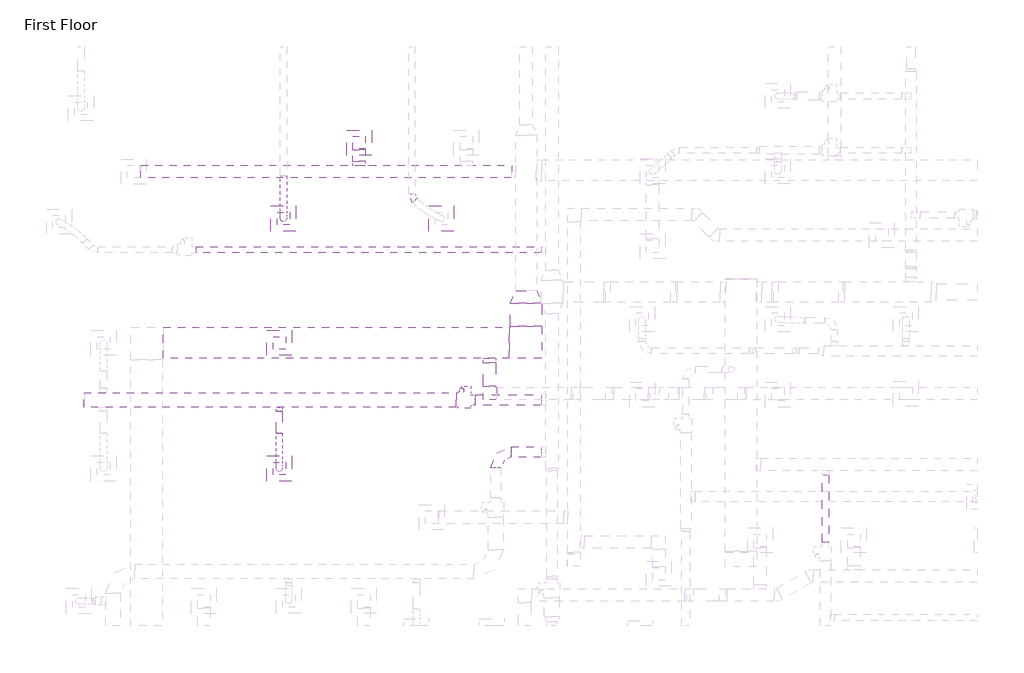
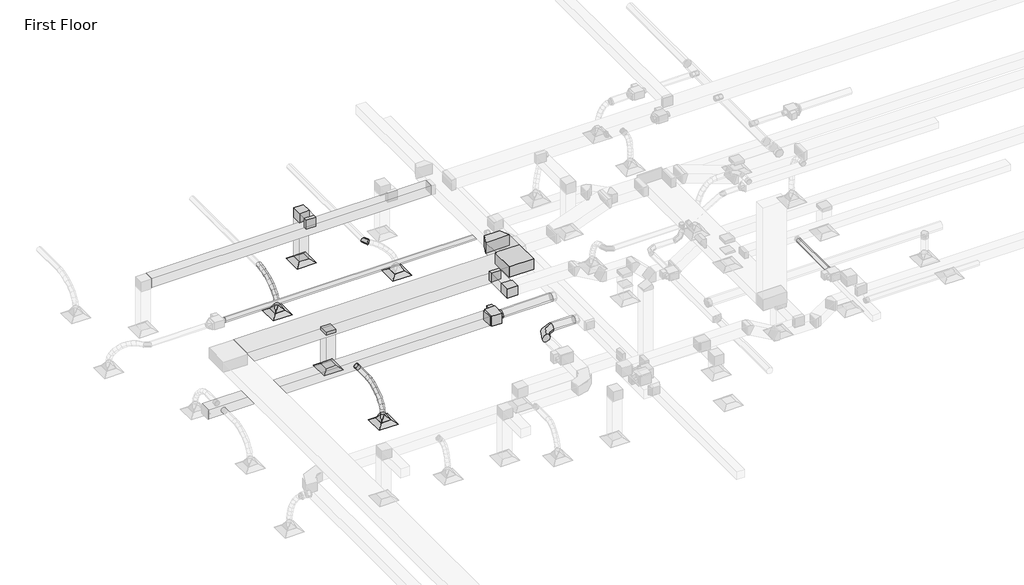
# One storey, part 38 of 61: 16 duct segments, 12 duct fittings, 5 air terminals, 1 proxy.
"""IFC4 building model written with IfcOpenShell, lengths in millimetres."""

from ifc_helpers import new_model, si_unit, point, frame, frame_2d, origin, place, context, project, spatial, polyline, circle_curve, ellipse_curve, trimmed, segment, composite_curve, outline, extrude, transform, mapped, element, save
from ifc_brep_helpers import plane_surface, cylinder_surface, advanced_brep
from components import m_exhaust_grill_er_600_x_600_face_300_x_300_connection_ff221211, m_vav_unit_single_duct_250_mm_b14a1009, m_rectangular_elbow_mitered_standard_8eee5933, m_rectangular_elbow_mitered_standard_b1e48f8f, m_rectangular_takeoff_standard_c00386d1, m_rectangular_transition_angle_45_degree_d664cccb, m_rectangular_to_round_transition_angle_45_degree_8f201c83, m_round_elbow_1_5_d_fa134dda, m_round_elbow_1_5_d_4a9a621c, m_round_takeoff_standard_2721f8a4

model = new_model("IFC4")

# Units and contexts
model_context = context("Model", 3, world=origin())
ifc_project = project(units=[si_unit("LENGTHUNIT", "METRE", prefix="MILLI")], contexts=[model_context])

# Site, building, storey
site = spatial("IfcSite", under=ifc_project)
building = spatial("IfcBuilding", under=site)
storey = spatial("IfcBuildingStorey", under=building, Name="First Floor", Elevation=0.0)

# Air terminals
placement = place(None, origin())
m_exhaust_grill_er_600_x_600_face_300_x_300_connection_shape = m_exhaust_grill_er_600_x_600_face_300_x_300_connection_ff221211(model_context)
element("IfcAirTerminal", 1, ObjectType="M_Return Register : RR-600 x 600 Face 300 x 300 Connection", at=placement, inside=storey, context=model_context, shape_type="MappedRepresentation", body=[
    mapped(m_exhaust_grill_er_600_x_600_face_300_x_300_connection_shape, transform((-44128.5939195, 47871.0942628, 2680.0), x_axis=(1.0, 0.0, 0.0), y_axis=(0.0, 1.0, 0.0), z_axis=(0.0, 0.0, 1.0))),
])
element("IfcAirTerminal", 2, ObjectType="M_Return Register : RR-600 x 600 Face 300 x 300 Connection", at=placement, inside=storey, context=model_context, shape_type="MappedRepresentation", body=[
    mapped(m_exhaust_grill_er_600_x_600_face_300_x_300_connection_shape, transform((-46037.4296862, 43083.0983956, 2680.0), x_axis=(1.0, 0.0, 0.0), y_axis=(0.0, 1.0, 0.0), z_axis=(0.0, 0.0, 1.0))),
])
element("IfcAirTerminal", 3, ObjectType="M_Supply Diffuser : SD-600 x 600 Face 300 x 300 Connection", at=placement, inside=storey, context=model_context, shape_type="MappedRepresentation", body=[
    mapped(m_exhaust_grill_er_600_x_600_face_300_x_300_connection_shape, transform((-42157.9361632, 46057.2158131, 2680.0), x_axis=(1.0, 0.0, 0.0), y_axis=(0.0, 1.0, 0.0), z_axis=(0.0, 0.0, 1.0))),
])
element("IfcAirTerminal", 4, ObjectType="M_Supply Diffuser : SD-600 x 600 Face 300 x 300 Connection", at=placement, inside=storey, context=model_context, shape_type="MappedRepresentation", body=[
    mapped(m_exhaust_grill_er_600_x_600_face_300_x_300_connection_shape, transform((-45937.9361632, 46057.2158131, 2680.0), x_axis=(1.0, 0.0, 0.0), y_axis=(0.0, 1.0, 0.0), z_axis=(0.0, 0.0, 1.0))),
])
element("IfcAirTerminal", 5, ObjectType="M_Supply Diffuser : SD-600 x 600 Face 300 x 300 Connection", at=placement, inside=storey, context=model_context, shape_type="MappedRepresentation", body=[
    mapped(m_exhaust_grill_er_600_x_600_face_300_x_300_connection_shape, transform((-46037.4296862, 40075.2507851, 2680.0), x_axis=(1.0, 0.0, 0.0), y_axis=(0.0, 1.0, 0.0), z_axis=(0.0, 0.0, 1.0))),
])

# Proxy
m_vav_unit_single_duct_250_mm_shape = m_vav_unit_single_duct_250_mm_b14a1009(model_context)
element("IfcBuildingElementProxy", 6, Name="M_VAV Unit - Single Duct : 250 mm", ObjectType="M_VAV Unit - Single Duct : 250 mm", at=placement, inside=storey, context=model_context, shape_type="MappedRepresentation", body=[
    mapped(m_vav_unit_single_duct_250_mm_shape, transform((-41452.6542232, 41715.419914, 3499.95), x_axis=(-1.0000000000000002, 0.0, 0.0), y_axis=(0.0, -1.0000000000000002, 0.0), z_axis=(0.0, 0.0, 1.0))),
])

# Duct fittings
m_rectangular_elbow_mitered_standard_shape = m_rectangular_elbow_mitered_standard_8eee5933(model_context)
element("IfcDuctFitting", 7, ObjectType="M_Rectangular Elbow - Mitered : Standard", at=placement, inside=storey, context=model_context, shape_type="MappedRepresentation", body=[
    mapped(m_rectangular_elbow_mitered_standard_shape, transform((-44128.5939195, 47871.0942628, 4259.5), x_axis=(0.0, 0.0, 1.0), y_axis=(0.0, -1.0, 0.0), z_axis=(1.0, 0.0, 0.0))),
])
element("IfcDuctFitting", 8, ObjectType="M_Rectangular Elbow - Mitered : Standard", at=placement, inside=storey, context=model_context, shape_type="MappedRepresentation", body=[
    mapped(m_rectangular_elbow_mitered_standard_shape, transform((-41009.3980886, 41867.8999759, 4259.5), x_axis=(0.0, -1.0, 0.0), y_axis=(1.0, 0.0, 0.0), z_axis=(0.0, 0.0, 1.0))),
])
m_rectangular_elbow_mitered_standard_2_shape = m_rectangular_elbow_mitered_standard_b1e48f8f(model_context)
element("IfcDuctFitting", 9, ObjectType="M_Rectangular Elbow - Mitered : Standard", at=placement, inside=storey, context=model_context, shape_type="MappedRepresentation", body=[
    mapped(m_rectangular_elbow_mitered_standard_2_shape, transform((-40131.0542232, 43083.0983956, 4167.610768), x_axis=(1.0, 0.0, 0.0), y_axis=(0.0, 1.0, 0.0), z_axis=(0.0, 0.0, 1.0))),
])
m_rectangular_takeoff_standard_shape = m_rectangular_takeoff_standard_c00386d1(model_context)
element("IfcDuctFitting", 10, ObjectType="M_Rectangular Takeoff : Standard", at=placement, inside=storey, context=model_context, shape_type="MappedRepresentation", body=[
    mapped(m_rectangular_takeoff_standard_shape, transform((-44128.5939195, 47329.7739392, 4259.5), x_axis=(0.0, 1.0, 0.0), y_axis=(1.0, 0.0, 0.0), z_axis=(0.0, 0.0, -1.0))),
])
element("IfcDuctFitting", 11, ObjectType="M_Rectangular Takeoff : Standard", at=placement, inside=storey, context=model_context, shape_type="MappedRepresentation", body=[
    mapped(m_rectangular_takeoff_standard_shape, transform((-41009.3980886, 42708.0983956, 4259.5), x_axis=(0.0, -1.0, 0.0), y_axis=(-1.0, 0.0, 0.0), z_axis=(0.0, 0.0, -1.0))),
])
element("IfcDuctFitting", 12, ObjectType="M_Rectangular Takeoff : Standard", at=placement, inside=storey, context=model_context, shape_type="MappedRepresentation", body=[
    mapped(m_rectangular_takeoff_standard_shape, transform((-46037.4296862, 43083.0983956, 3992.610768), x_axis=(0.0, 0.0, -1.0), y_axis=(0.0, 1.0, 0.0), z_axis=(1.0, 0.0, 0.0))),
])
m_rectangular_transition_angle_45_degree_shape = m_rectangular_transition_angle_45_degree_d664cccb(model_context)
element("IfcDuctFitting", 13, ObjectType="M_Rectangular Transition - Angle : 45 Degree", at=placement, inside=storey, context=model_context, shape_type="MappedRepresentation", body=[
    mapped(m_rectangular_transition_angle_45_degree_shape, transform((-40131.0542232, 44332.6026172, 4167.610768), x_axis=(0.0, -1.0, 0.0), y_axis=(1.0, 0.0, 0.0), z_axis=(0.0, 0.0, 1.0))),
])
m_rectangular_to_round_transition_angle_45_degree_shape = m_rectangular_to_round_transition_angle_45_degree_8f201c83(model_context)
element("IfcDuctFitting", 14, ObjectType="M_Rectangular to Round Transition - Angle : 45 Degree", at=placement, inside=storey, context=model_context, shape_type="MappedRepresentation", body=[
    mapped(m_rectangular_to_round_transition_angle_45_degree_shape, transform((-45937.9361632, 46057.2158131, 2781.6), x_axis=(0.0, 0.0, 1.0), y_axis=(1.0, 0.0, 0.0), z_axis=(0.0, 1.0, 0.0))),
])
element("IfcDuctFitting", 15, ObjectType="M_Rectangular to Round Transition - Angle : 45 Degree", at=placement, inside=storey, context=model_context, shape_type="MappedRepresentation", body=[
    mapped(m_rectangular_to_round_transition_angle_45_degree_shape, transform((-46037.4296862, 40075.2507851, 2781.6), x_axis=(0.0, 0.0, 1.0), y_axis=(1.0, 0.0, 0.0), z_axis=(0.0, 1.0, 0.0))),
])
m_round_elbow_1_5_d_shape = m_round_elbow_1_5_d_fa134dda(model_context)
element("IfcDuctFitting", 16, ObjectType="M_Round Elbow : 1.5 D", at=placement, inside=storey, context=model_context, shape_type="MappedRepresentation", body=[
    mapped(m_round_elbow_1_5_d_shape, transform((-42866.4659911, 46556.7063247, 3669.1), x_axis=(0.0, -1.0, 0.0), y_axis=(1.0, 0.0, 0.0), z_axis=(0.0, 0.0, 1.0))),
])
m_round_elbow_1_5_d_2_shape = m_round_elbow_1_5_d_4a9a621c(model_context)
element("IfcDuctFitting", 17, ObjectType="M_Round Elbow : 1.5 D", at=placement, inside=storey, context=model_context, shape_type="MappedRepresentation", body=[
    mapped(m_round_elbow_1_5_d_2_shape, transform((-40858.2755943, 40472.4324746, 3659.5), x_axis=(-1.0, 0.0, 0.0), y_axis=(0.0, -0.9999999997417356, -2.2727272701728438e-05), z_axis=(0.0, -2.2727272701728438e-05, 0.9999999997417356))),
])
m_round_takeoff_standard_shape = m_round_takeoff_standard_2721f8a4(model_context)
element("IfcDuctFitting", 18, ObjectType="M_Round Takeoff : Standard", at=placement, inside=storey, context=model_context, shape_type="MappedRepresentation", body=[
    mapped(m_round_takeoff_standard_shape, transform((-46037.4296862, 41540.419914, 3669.0), x_axis=(0.0, -1.0, 0.0), y_axis=(-1.0, 0.0, 0.0), z_axis=(0.0, 0.0, -1.0))),
])

# Duct segments
element("IfcDuctSegment", 19, ObjectType="Flex - Round", at=placement, inside=storey, context=model_context, shape_type="AdvancedBrep", body=[
    advanced_brep(
    [(-45862.9361632, 47080.7449461, 3669.1), (-45937.9361632, 47086.2290411, 3594.3007707), (-46012.9361632, 47080.7449461, 3669.1), (-45937.9361632, 47075.260851, 3743.8992293), (-45862.9361632, 46936.4627603, 3658.5215858), (-45937.9361632, 46946.6913024, 3584.0702077), (-46012.9361632, 46936.4627603, 3658.5215858), (-45937.9361632, 46926.2342182, 3732.972964), (-45862.9361632, 46057.2158131, 2962.6660172), (-45937.9361632, 45983.167095, 2974.5734665), (-46012.9361632, 46057.2158131, 2962.6660172), (-45937.9361632, 46131.2645312, 2950.7585678), (-45862.9361632, 46784.3907563, 3627.7148468), (-45937.9361632, 46803.4537186, 3555.0531451), (-46012.9361632, 46784.3907563, 3627.7148468), (-45937.9361632, 46765.327794, 3700.3765485), (-45862.9361632, 46631.1413627, 3578.0725382), (-45937.9361632, 46658.2816692, 3508.0273428), (-46012.9361632, 46631.1413627, 3578.0725382), (-45937.9361632, 46604.0010562, 3648.1177335), (-45862.9361632, 46483.3270079, 3510.9874151), (-45937.9361632, 46518.5416552, 3444.6067363), (-46012.9361632, 46483.3270079, 3510.9874151), (-45937.9361632, 46448.1123605, 3577.3680939), (-45862.9361632, 46347.5601204, 3427.8522329), (-45937.9361632, 46391.4137481, 3366.7615274), (-46012.9361632, 46347.5601204, 3427.8522329), (-45937.9361632, 46303.7064927, 3488.9429385), (-45862.9361632, 46230.4531287, 3330.0597468), (-45937.9361632, 46283.8399069, 3276.9298853), (-46012.9361632, 46230.4531287, 3330.0597468), (-45937.9361632, 46177.0663505, 3383.1896084), (-45862.9361632, 46138.6184612, 3219.002712), (-45937.9361632, 46202.1121415, 3178.0952781), (-46012.9361632, 46138.6184612, 3219.002712), (-45937.9361632, 46075.124781, 3259.9101459), (-45862.9361632, 46078.6685466, 3096.0738837), (-45937.9361632, 46150.9523119, 3073.1907433), (-46012.9361632, 46078.6685466, 3096.0738837), (-45937.9361632, 46006.3847812, 3118.9570241)],
    [
        (0, 1, circle_curve(frame((-45937.9361632, 47080.7449461, 3669.1), z_axis=(0.0, 0.9973230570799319, 0.07312126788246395), x_axis=(1.0, 0.0, 0.0)), 75.0)),
        (1, 2, circle_curve(frame((-45937.9361632, 47080.7449461, 3669.1), z_axis=(0.0, 0.9973230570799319, 0.07312126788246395), x_axis=(1.0, 0.0, 0.0)), 75.0)),
        (2, 3, circle_curve(frame((-45937.9361632, 47080.7449461, 3669.1), z_axis=(0.0, 0.9973230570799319, 0.07312126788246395), x_axis=(1.0, 0.0, 0.0)), 75.0)),
        (3, 0, circle_curve(frame((-45937.9361632, 47080.7449461, 3669.1), z_axis=(0.0, 0.9973230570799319, 0.07312126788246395), x_axis=(1.0, 0.0, 0.0)), 75.0)),
        (0, 4),
        (4, 5, ellipse_curve(frame((-45937.9361632, 46936.4627603, 3658.5215858), z_axis=(0.0, 0.9906941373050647, 0.13610703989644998), x_axis=(0.0, 0.1361070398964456, -0.9906941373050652)), 75.1507204, 75.0)),
        (5, 1),
        (5, 6, ellipse_curve(frame((-45937.9361632, 46936.4627603, 3658.5215858), z_axis=(0.0, 0.9906941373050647, 0.13610703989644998), x_axis=(0.0, 0.1361070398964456, -0.9906941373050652)), 75.1507204, 75.0)),
        (6, 2),
        (6, 7, ellipse_curve(frame((-45937.9361632, 46936.4627603, 3658.5215858), z_axis=(0.0, 0.9906941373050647, 0.13610703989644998), x_axis=(0.0, 0.1361070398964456, -0.9906941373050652)), 75.1507204, 75.0)),
        (7, 3),
        (7, 4, ellipse_curve(frame((-45937.9361632, 46936.4627603, 3658.5215858), z_axis=(0.0, 0.9906941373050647, 0.13610703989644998), x_axis=(0.0, 0.1361070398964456, -0.9906941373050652)), 75.1507204, 75.0)),
        (8, 9, circle_curve(frame((-45937.9361632, 46057.2158131, 2962.6660172), z_axis=(0.0, -0.15876599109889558, -0.9873162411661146), x_axis=(1.0, 0.0, 0.0)), 75.0)),
        (9, 10, circle_curve(frame((-45937.9361632, 46057.2158131, 2962.6660172), z_axis=(0.0, -0.15876599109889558, -0.9873162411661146), x_axis=(1.0, 0.0, 0.0)), 75.0)),
        (10, 11, circle_curve(frame((-45937.9361632, 46057.2158131, 2962.6660172), z_axis=(0.0, -0.15876599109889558, -0.9873162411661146), x_axis=(1.0, 0.0, 0.0)), 75.0)),
        (11, 8, circle_curve(frame((-45937.9361632, 46057.2158131, 2962.6660172), z_axis=(0.0, -0.15876599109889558, -0.9873162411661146), x_axis=(1.0, 0.0, 0.0)), 75.0)),
        (4, 12),
        (12, 13, ellipse_curve(frame((-45937.9361632, 46784.3907563, 3627.7148468), z_axis=(0.0, 0.9672660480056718, 0.25376444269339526), x_axis=(0.0, 0.25376444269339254, -0.9672660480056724)), 75.1206991, 75.0)),
        (13, 5),
        (13, 14, ellipse_curve(frame((-45937.9361632, 46784.3907563, 3627.7148468), z_axis=(0.0, 0.9672660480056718, 0.25376444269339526), x_axis=(0.0, 0.25376444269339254, -0.9672660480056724)), 75.1206991, 75.0)),
        (14, 6),
        (14, 15, ellipse_curve(frame((-45937.9361632, 46784.3907563, 3627.7148468), z_axis=(0.0, 0.9672660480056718, 0.25376444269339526), x_axis=(0.0, 0.25376444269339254, -0.9672660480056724)), 75.1206991, 75.0)),
        (15, 7),
        (15, 12, ellipse_curve(frame((-45937.9361632, 46784.3907563, 3627.7148468), z_axis=(0.0, 0.9672660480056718, 0.25376444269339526), x_axis=(0.0, 0.25376444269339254, -0.9672660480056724)), 75.1206991, 75.0)),
        (12, 16),
        (16, 17, ellipse_curve(frame((-45937.9361632, 46631.1413627, 3578.0725382), z_axis=(0.0, 0.9324513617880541, 0.36129552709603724), x_axis=(0.0, 0.3612955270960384, -0.9324513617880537)), 75.1194091, 75.0)),
        (17, 13),
        (17, 18, ellipse_curve(frame((-45937.9361632, 46631.1413627, 3578.0725382), z_axis=(0.0, 0.9324513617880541, 0.36129552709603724), x_axis=(0.0, 0.3612955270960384, -0.9324513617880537)), 75.1194091, 75.0)),
        (18, 14),
        (18, 19, ellipse_curve(frame((-45937.9361632, 46631.1413627, 3578.0725382), z_axis=(0.0, 0.9324513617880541, 0.36129552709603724), x_axis=(0.0, 0.3612955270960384, -0.9324513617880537)), 75.1194091, 75.0)),
        (19, 15),
        (19, 16, ellipse_curve(frame((-45937.9361632, 46631.1413627, 3578.0725382), z_axis=(0.0, 0.9324513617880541, 0.36129552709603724), x_axis=(0.0, 0.3612955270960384, -0.9324513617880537)), 75.1194091, 75.0)),
        (16, 20),
        (20, 21, ellipse_curve(frame((-45937.9361632, 46483.3270079, 3510.9874151), z_axis=(0.0, 0.8833917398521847, 0.4686352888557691), x_axis=(0.0, 0.46863528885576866, -0.8833917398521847)), 75.1429698, 75.0)),
        (21, 17),
        (21, 22, ellipse_curve(frame((-45937.9361632, 46483.3270079, 3510.9874151), z_axis=(0.0, 0.8833917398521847, 0.4686352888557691), x_axis=(0.0, 0.46863528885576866, -0.8833917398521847)), 75.1429698, 75.0)),
        (22, 18),
        (22, 23, ellipse_curve(frame((-45937.9361632, 46483.3270079, 3510.9874151), z_axis=(0.0, 0.8833917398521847, 0.4686352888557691), x_axis=(0.0, 0.46863528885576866, -0.8833917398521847)), 75.1429698, 75.0)),
        (23, 19),
        (23, 20, ellipse_curve(frame((-45937.9361632, 46483.3270079, 3510.9874151), z_axis=(0.0, 0.8833917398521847, 0.4686352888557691), x_axis=(0.0, 0.46863528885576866, -0.8833917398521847)), 75.1429698, 75.0)),
        (20, 24),
        (24, 25, ellipse_curve(frame((-45937.9361632, 46347.5601204, 3427.8522329), z_axis=(0.0, 0.8123638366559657, 0.5831509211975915), x_axis=(0.0, 0.5831509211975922, -0.8123638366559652)), 75.2011633, 75.0)),
        (25, 21),
        (25, 26, ellipse_curve(frame((-45937.9361632, 46347.5601204, 3427.8522329), z_axis=(0.0, 0.8123638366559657, 0.5831509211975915), x_axis=(0.0, 0.5831509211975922, -0.8123638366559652)), 75.2011633, 75.0)),
        (26, 22),
        (26, 27, ellipse_curve(frame((-45937.9361632, 46347.5601204, 3427.8522329), z_axis=(0.0, 0.8123638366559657, 0.5831509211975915), x_axis=(0.0, 0.5831509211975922, -0.8123638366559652)), 75.2011633, 75.0)),
        (27, 23),
        (27, 24, ellipse_curve(frame((-45937.9361632, 46347.5601204, 3427.8522329), z_axis=(0.0, 0.8123638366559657, 0.5831509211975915), x_axis=(0.0, 0.5831509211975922, -0.8123638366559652)), 75.2011633, 75.0)),
        (24, 28),
        (28, 29, ellipse_curve(frame((-45937.9361632, 46230.4531287, 3330.0597468), z_axis=(0.0, 0.7053991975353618, 0.7088102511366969), x_axis=(0.0, 0.708810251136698, -0.7053991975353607)), 75.3188574, 75.0)),
        (29, 25),
        (29, 30, ellipse_curve(frame((-45937.9361632, 46230.4531287, 3330.0597468), z_axis=(0.0, 0.7053991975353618, 0.7088102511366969), x_axis=(0.0, 0.708810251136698, -0.7053991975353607)), 75.3188574, 75.0)),
        (30, 26),
        (30, 31, ellipse_curve(frame((-45937.9361632, 46230.4531287, 3330.0597468), z_axis=(0.0, 0.7053991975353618, 0.7088102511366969), x_axis=(0.0, 0.708810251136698, -0.7053991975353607)), 75.3188574, 75.0)),
        (31, 27),
        (31, 28, ellipse_curve(frame((-45937.9361632, 46230.4531287, 3330.0597468), z_axis=(0.0, 0.7053991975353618, 0.7088102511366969), x_axis=(0.0, 0.708810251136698, -0.7053991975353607)), 75.3188574, 75.0)),
        (28, 32),
        (32, 33, ellipse_curve(frame((-45937.9361632, 46138.6184612, 3219.002712), z_axis=(0.0, 0.5416010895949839, 0.8406356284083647), x_axis=(0.0, 0.840635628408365, -0.5416010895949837)), 75.5305606, 75.0)),
        (33, 29),
        (33, 34, ellipse_curve(frame((-45937.9361632, 46138.6184612, 3219.002712), z_axis=(0.0, 0.5416010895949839, 0.8406356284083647), x_axis=(0.0, 0.840635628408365, -0.5416010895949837)), 75.5305606, 75.0)),
        (34, 30),
        (34, 35, ellipse_curve(frame((-45937.9361632, 46138.6184612, 3219.002712), z_axis=(0.0, 0.5416010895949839, 0.8406356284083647), x_axis=(0.0, 0.840635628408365, -0.5416010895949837)), 75.5305606, 75.0)),
        (35, 31),
        (35, 32, ellipse_curve(frame((-45937.9361632, 46138.6184612, 3219.002712), z_axis=(0.0, 0.5416010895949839, 0.8406356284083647), x_axis=(0.0, 0.840635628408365, -0.5416010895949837)), 75.5305606, 75.0)),
        (32, 36),
        (36, 37, ellipse_curve(frame((-45937.9361632, 46078.6685466, 3096.0738837), z_axis=(0.0, 0.30181116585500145, 0.9533677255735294), x_axis=(0.0, 0.9533677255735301, -0.3018111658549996)), 75.8193963, 75.0)),
        (37, 33),
        (37, 38, ellipse_curve(frame((-45937.9361632, 46078.6685466, 3096.0738837), z_axis=(0.0, 0.30181116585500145, 0.9533677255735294), x_axis=(0.0, 0.9533677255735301, -0.3018111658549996)), 75.8193963, 75.0)),
        (38, 34),
        (38, 39, ellipse_curve(frame((-45937.9361632, 46078.6685466, 3096.0738837), z_axis=(0.0, 0.30181116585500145, 0.9533677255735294), x_axis=(0.0, 0.9533677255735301, -0.3018111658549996)), 75.8193963, 75.0)),
        (39, 35),
        (39, 36, ellipse_curve(frame((-45937.9361632, 46078.6685466, 3096.0738837), z_axis=(0.0, 0.30181116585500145, 0.9533677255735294), x_axis=(0.0, 0.9533677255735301, -0.3018111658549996)), 75.8193963, 75.0)),
        (36, 8),
        (11, 37),
        (10, 38),
        (9, 39),
    ],
    [
        plane_surface(frame((-45937.9361632, 47086.2290411, 3594.3007707), z_axis=(0.0, 0.9973230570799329, 0.07312126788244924), x_axis=(1.0, 0.0, 0.0))),
        cylinder_surface(frame((-45937.9361632, 47080.7449461, 3669.1), z_axis=(0.0, 0.9973230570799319, 0.07312126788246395), x_axis=(1.0, 0.0, 0.0)), 75.0),
        plane_surface(frame((-45937.9361632, 46131.2645312, 2950.7585678), z_axis=(0.0, -0.15876599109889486, -0.9873162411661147), x_axis=(1.0, 0.0, 0.0))),
        cylinder_surface(frame((-45937.9361632, 46936.4627603, 3658.5215858), z_axis=(0.0, 0.9800913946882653, 0.19854686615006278), x_axis=(1.0, 0.0, 0.0)), 75.0),
        cylinder_surface(frame((-45937.9361632, 46784.3907563, 3627.7148468), z_axis=(0.0, 0.9513324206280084, 0.3081665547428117), x_axis=(1.0, 0.0, 0.0)), 75.0),
        cylinder_surface(frame((-45937.9361632, 46631.1413627, 3578.0725382), z_axis=(0.0, 0.9106058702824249, 0.413275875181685), x_axis=(1.0, 0.0, 0.0)), 75.0),
        cylinder_surface(frame((-45937.9361632, 46483.3270079, 3510.9874151), z_axis=(0.0, 0.8528160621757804, 0.5222114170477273), x_axis=(1.0, 0.0, 0.0)), 75.0),
        cylinder_surface(frame((-45937.9361632, 46347.5601204, 3427.8522329), z_axis=(0.0, 0.7675654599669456, 0.6409705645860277), x_axis=(1.0, 0.0, 0.0)), 75.0),
        cylinder_surface(frame((-45937.9361632, 46230.4531287, 3330.0597468), z_axis=(0.0, 0.6372604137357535, 0.7706485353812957), x_axis=(1.0, 0.0, 0.0)), 75.0),
        cylinder_surface(frame((-45937.9361632, 46138.6184612, 3219.002712), z_axis=(0.0, 0.43833286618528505, 0.8988127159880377), x_axis=(1.0, 0.0, 0.0)), 75.0),
        cylinder_surface(frame((-45937.9361632, 46078.6685466, 3096.0738837), z_axis=(0.0, 0.15876599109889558, 0.9873162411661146), x_axis=(1.0, 0.0, 0.0)), 75.0),
    ],
    [
        (0, [[1, 2, 3, 4]]),
        (1, [[-1, 5, 6, 7]]),
        (1, [[-2, -7, 8, 9]]),
        (1, [[-3, -9, 10, 11]]),
        (1, [[-4, -11, 12, -5]]),
        (2, [[13, 14, 15, 16]]),
        (3, [[-6, 17, 18, 19]]),
        (3, [[-8, -19, 20, 21]]),
        (3, [[-10, -21, 22, 23]]),
        (3, [[-12, -23, 24, -17]]),
        (4, [[-18, 25, 26, 27]]),
        (4, [[-20, -27, 28, 29]]),
        (4, [[-22, -29, 30, 31]]),
        (4, [[-24, -31, 32, -25]]),
        (5, [[-26, 33, 34, 35]]),
        (5, [[-28, -35, 36, 37]]),
        (5, [[-30, -37, 38, 39]]),
        (5, [[-32, -39, 40, -33]]),
        (6, [[-34, 41, 42, 43]]),
        (6, [[-36, -43, 44, 45]]),
        (6, [[-38, -45, 46, 47]]),
        (6, [[-40, -47, 48, -41]]),
        (7, [[-42, 49, 50, 51]]),
        (7, [[-44, -51, 52, 53]]),
        (7, [[-46, -53, 54, 55]]),
        (7, [[-48, -55, 56, -49]]),
        (8, [[-50, 57, 58, 59]]),
        (8, [[-52, -59, 60, 61]]),
        (8, [[-54, -61, 62, 63]]),
        (8, [[-56, -63, 64, -57]]),
        (9, [[-58, 65, 66, 67]]),
        (9, [[-60, -67, 68, 69]]),
        (9, [[-62, -69, 70, 71]]),
        (9, [[-64, -71, 72, -65]]),
        (10, [[-66, 73, -16, 74]]),
        (10, [[-68, -74, -15, 75]]),
        (10, [[-70, -75, -14, 76]]),
        (10, [[-72, -76, -13, -73]]),
    ],
),
])
element("IfcDuctSegment", 20, ObjectType="Flex - Round", at=placement, inside=storey, context=model_context, shape_type="AdvancedBrep", body=[
    advanced_brep(
    [(-45962.4296862, 40915.419914, 3669.0), (-46037.4296862, 40923.5251309, 3594.4392499), (-46112.4296862, 40915.419914, 3669.0), (-46037.4296862, 40907.3146971, 3743.5607501), (-45962.4296862, 40774.272265, 3653.6563733), (-46037.4296862, 40789.2791324, 3579.8458755), (-46112.4296862, 40774.272265, 3653.6563733), (-46037.4296862, 40759.2653976, 3727.4668712), (-45962.4296862, 40075.2507851, 2962.6660172), (-46037.4296862, 40001.144763, 2974.2114702), (-46112.4296862, 40075.2507851, 2962.6660172), (-46037.4296862, 40149.3568072, 2951.1205641), (-45962.4296862, 40629.7892532, 3610.0867266), (-46037.4296862, 40657.0949868, 3539.9850195), (-46112.4296862, 40629.7892532, 3610.0867266), (-46037.4296862, 40602.4835197, 3680.1884338), (-45962.4296862, 40488.7994898, 3541.9829097), (-46037.4296862, 40526.4165495, 3476.8619945), (-46112.4296862, 40488.7994898, 3541.9829097), (-46037.4296862, 40451.18243, 3607.1038249), (-45962.4296862, 40358.1315857, 3453.0367725), (-46037.4296862, 40405.1169096, 3394.2928701), (-46112.4296862, 40358.1315857, 3453.0367725), (-46037.4296862, 40311.1462618, 3511.7806748), (-45962.4296862, 40244.6141521, 3346.9401647), (-46037.4296862, 40300.6702173, 3296.6740341), (-46112.4296862, 40244.6141521, 3346.9401647), (-46037.4296862, 40188.5580868, 3397.2062953), (-45962.4296862, 40155.0758, 3227.3849363), (-46037.4296862, 40219.9930329, 3188.9505951), (-46112.4296862, 40155.0758, 3227.3849363), (-46037.4296862, 40090.1585672, 3265.8192776), (-45962.4296862, 40096.3451407, 3098.0629372), (-46037.4296862, 40168.8727584, 3076.3862859), (-46112.4296862, 40096.3451407, 3098.0629372), (-46037.4296862, 40023.817523, 3119.7395885)],
    [
        (0, 1, circle_curve(frame((-46037.4296862, 40915.419914, 3669.0), z_axis=(0.0, 0.994143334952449, 0.10806955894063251), x_axis=(1.0, 0.0, 0.0)), 75.0)),
        (1, 2, circle_curve(frame((-46037.4296862, 40915.419914, 3669.0), z_axis=(0.0, 0.994143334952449, 0.10806955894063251), x_axis=(1.0, 0.0, 0.0)), 75.0)),
        (2, 3, circle_curve(frame((-46037.4296862, 40915.419914, 3669.0), z_axis=(0.0, 0.994143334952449, 0.10806955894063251), x_axis=(1.0, 0.0, 0.0)), 75.0)),
        (3, 0, circle_curve(frame((-46037.4296862, 40915.419914, 3669.0), z_axis=(0.0, 0.994143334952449, 0.10806955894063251), x_axis=(1.0, 0.0, 0.0)), 75.0)),
        (0, 4),
        (4, 5, ellipse_curve(frame((-46037.4296862, 40774.272265, 3653.6563733), z_axis=(0.0, 0.9799507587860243, 0.19923983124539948), x_axis=(0.0, 0.19923983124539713, -0.9799507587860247)), 75.3206191, 75.0)),
        (5, 1),
        (5, 6, ellipse_curve(frame((-46037.4296862, 40774.272265, 3653.6563733), z_axis=(0.0, 0.9799507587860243, 0.19923983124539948), x_axis=(0.0, 0.19923983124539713, -0.9799507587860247)), 75.3206191, 75.0)),
        (6, 2),
        (6, 7, ellipse_curve(frame((-46037.4296862, 40774.272265, 3653.6563733), z_axis=(0.0, 0.9799507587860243, 0.19923983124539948), x_axis=(0.0, 0.19923983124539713, -0.9799507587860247)), 75.3206191, 75.0)),
        (7, 3),
        (7, 4, ellipse_curve(frame((-46037.4296862, 40774.272265, 3653.6563733), z_axis=(0.0, 0.9799507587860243, 0.19923983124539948), x_axis=(0.0, 0.19923983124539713, -0.9799507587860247)), 75.3206191, 75.0)),
        (8, 9, circle_curve(frame((-46037.4296862, 40075.2507851, 2962.6660172), z_axis=(0.0, -0.1539393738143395, -0.9880802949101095), x_axis=(1.0, 0.0, 0.0)), 75.0)),
        (9, 10, circle_curve(frame((-46037.4296862, 40075.2507851, 2962.6660172), z_axis=(0.0, -0.1539393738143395, -0.9880802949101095), x_axis=(1.0, 0.0, 0.0)), 75.0)),
        (10, 11, circle_curve(frame((-46037.4296862, 40075.2507851, 2962.6660172), z_axis=(0.0, -0.1539393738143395, -0.9880802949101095), x_axis=(1.0, 0.0, 0.0)), 75.0)),
        (11, 8, circle_curve(frame((-46037.4296862, 40075.2507851, 2962.6660172), z_axis=(0.0, -0.1539393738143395, -0.9880802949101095), x_axis=(1.0, 0.0, 0.0)), 75.0)),
        (4, 12),
        (12, 13, ellipse_curve(frame((-46037.4296862, 40629.7892532, 3610.0867266), z_axis=(0.0, 0.9318071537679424, 0.36295375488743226), x_axis=(0.0, 0.3629537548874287, -0.9318071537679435)), 75.2319907, 75.0)),
        (13, 5),
        (13, 14, ellipse_curve(frame((-46037.4296862, 40629.7892532, 3610.0867266), z_axis=(0.0, 0.9318071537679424, 0.36295375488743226), x_axis=(0.0, 0.3629537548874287, -0.9318071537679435)), 75.2319907, 75.0)),
        (14, 6),
        (14, 15, ellipse_curve(frame((-46037.4296862, 40629.7892532, 3610.0867266), z_axis=(0.0, 0.9318071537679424, 0.36295375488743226), x_axis=(0.0, 0.3629537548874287, -0.9318071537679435)), 75.2319907, 75.0)),
        (15, 7),
        (15, 12, ellipse_curve(frame((-46037.4296862, 40629.7892532, 3610.0867266), z_axis=(0.0, 0.9318071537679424, 0.36295375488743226), x_axis=(0.0, 0.3629537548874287, -0.9318071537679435)), 75.2319907, 75.0)),
        (12, 16),
        (16, 17, ellipse_curve(frame((-46037.4296862, 40488.7994898, 3541.9829097), z_axis=(0.0, 0.8659132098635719, 0.5001942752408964), x_axis=(0.0, 0.5001942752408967, -0.8659132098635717)), 75.2048987, 75.0)),
        (17, 13),
        (17, 18, ellipse_curve(frame((-46037.4296862, 40488.7994898, 3541.9829097), z_axis=(0.0, 0.8659132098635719, 0.5001942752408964), x_axis=(0.0, 0.5001942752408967, -0.8659132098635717)), 75.2048987, 75.0)),
        (18, 14),
        (18, 19, ellipse_curve(frame((-46037.4296862, 40488.7994898, 3541.9829097), z_axis=(0.0, 0.8659132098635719, 0.5001942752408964), x_axis=(0.0, 0.5001942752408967, -0.8659132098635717)), 75.2048987, 75.0)),
        (19, 15),
        (19, 16, ellipse_curve(frame((-46037.4296862, 40488.7994898, 3541.9829097), z_axis=(0.0, 0.8659132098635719, 0.5001942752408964), x_axis=(0.0, 0.5001942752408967, -0.8659132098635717)), 75.2048987, 75.0)),
        (16, 20),
        (20, 21, ellipse_curve(frame((-46037.4296862, 40358.1315857, 3453.0367725), z_axis=(0.0, 0.7809323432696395, 0.6246156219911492), x_axis=(0.0, 0.624615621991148, -0.7809323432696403)), 75.2227806, 75.0)),
        (21, 17),
        (21, 22, ellipse_curve(frame((-46037.4296862, 40358.1315857, 3453.0367725), z_axis=(0.0, 0.7809323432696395, 0.6246156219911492), x_axis=(0.0, 0.624615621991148, -0.7809323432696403)), 75.2227806, 75.0)),
        (22, 18),
        (22, 23, ellipse_curve(frame((-46037.4296862, 40358.1315857, 3453.0367725), z_axis=(0.0, 0.7809323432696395, 0.6246156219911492), x_axis=(0.0, 0.624615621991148, -0.7809323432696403)), 75.2227806, 75.0)),
        (23, 19),
        (23, 20, ellipse_curve(frame((-46037.4296862, 40358.1315857, 3453.0367725), z_axis=(0.0, 0.7809323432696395, 0.6246156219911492), x_axis=(0.0, 0.624615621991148, -0.7809323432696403)), 75.2227806, 75.0)),
        (20, 24),
        (24, 25, ellipse_curve(frame((-46037.4296862, 40244.6141521, 3346.9401647), z_axis=(0.0, 0.6676110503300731, 0.7445102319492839), x_axis=(0.0, 0.7445102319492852, -0.6676110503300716)), 75.2925384, 75.0)),
        (25, 21),
        (25, 26, ellipse_curve(frame((-46037.4296862, 40244.6141521, 3346.9401647), z_axis=(0.0, 0.6676110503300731, 0.7445102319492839), x_axis=(0.0, 0.7445102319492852, -0.6676110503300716)), 75.2925384, 75.0)),
        (26, 22),
        (26, 27, ellipse_curve(frame((-46037.4296862, 40244.6141521, 3346.9401647), z_axis=(0.0, 0.6676110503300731, 0.7445102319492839), x_axis=(0.0, 0.7445102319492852, -0.6676110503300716)), 75.2925384, 75.0)),
        (27, 23),
        (27, 24, ellipse_curve(frame((-46037.4296862, 40244.6141521, 3346.9401647), z_axis=(0.0, 0.6676110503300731, 0.7445102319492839), x_axis=(0.0, 0.7445102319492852, -0.6676110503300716)), 75.2925384, 75.0)),
        (24, 28),
        (28, 29, ellipse_curve(frame((-46037.4296862, 40155.0758, 3227.3849363), z_axis=(0.0, 0.5094577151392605, 0.8604956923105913), x_axis=(0.0, 0.8604956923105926, -0.5094577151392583)), 75.4416709, 75.0)),
        (29, 25),
        (29, 30, ellipse_curve(frame((-46037.4296862, 40155.0758, 3227.3849363), z_axis=(0.0, 0.5094577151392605, 0.8604956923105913), x_axis=(0.0, 0.8604956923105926, -0.5094577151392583)), 75.4416709, 75.0)),
        (30, 26),
        (30, 31, ellipse_curve(frame((-46037.4296862, 40155.0758, 3227.3849363), z_axis=(0.0, 0.5094577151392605, 0.8604956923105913), x_axis=(0.0, 0.8604956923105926, -0.5094577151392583)), 75.4416709, 75.0)),
        (31, 27),
        (31, 28, ellipse_curve(frame((-46037.4296862, 40155.0758, 3227.3849363), z_axis=(0.0, 0.5094577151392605, 0.8604956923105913), x_axis=(0.0, 0.8604956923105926, -0.5094577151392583)), 75.4416709, 75.0)),
        (28, 32),
        (32, 33, ellipse_curve(frame((-46037.4296862, 40096.3451407, 3098.0629372), z_axis=(0.0, 0.2863583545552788, 0.9581225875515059), x_axis=(0.0, 0.9581225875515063, -0.28635835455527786)), 75.6976389, 75.0)),
        (33, 29),
        (33, 34, ellipse_curve(frame((-46037.4296862, 40096.3451407, 3098.0629372), z_axis=(0.0, 0.2863583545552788, 0.9581225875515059), x_axis=(0.0, 0.9581225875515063, -0.28635835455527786)), 75.6976389, 75.0)),
        (34, 30),
        (34, 35, ellipse_curve(frame((-46037.4296862, 40096.3451407, 3098.0629372), z_axis=(0.0, 0.2863583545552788, 0.9581225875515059), x_axis=(0.0, 0.9581225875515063, -0.28635835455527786)), 75.6976389, 75.0)),
        (35, 31),
        (35, 32, ellipse_curve(frame((-46037.4296862, 40096.3451407, 3098.0629372), z_axis=(0.0, 0.2863583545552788, 0.9581225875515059), x_axis=(0.0, 0.9581225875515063, -0.28635835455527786)), 75.6976389, 75.0)),
        (32, 8),
        (11, 33),
        (10, 34),
        (9, 35),
    ],
    [
        plane_surface(frame((-46037.4296862, 40923.5251309, 3594.4392499), z_axis=(0.0, 0.9941433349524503, 0.1080695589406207), x_axis=(1.0, 0.0, 0.0))),
        cylinder_surface(frame((-46037.4296862, 40915.419914, 3669.0), z_axis=(0.0, 0.994143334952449, 0.10806955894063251), x_axis=(1.0, 0.0, 0.0)), 75.0),
        plane_surface(frame((-46037.4296862, 40149.3568072, 2951.1205641), z_axis=(0.0, -0.15393937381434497, -0.9880802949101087), x_axis=(1.0, 0.0, 0.0))),
        cylinder_surface(frame((-46037.4296862, 40774.272265, 3653.6563733), z_axis=(0.0, 0.9574154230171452, 0.28871388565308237), x_axis=(1.0, 0.0, 0.0)), 75.0),
        cylinder_surface(frame((-46037.4296862, 40629.7892532, 3610.0867266), z_axis=(0.0, 0.9004521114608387, 0.4349551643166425), x_axis=(1.0, 0.0, 0.0)), 75.0),
        cylinder_surface(frame((-46037.4296862, 40488.7994898, 3541.9829097), z_axis=(0.0, 0.8266558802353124, 0.5627077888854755), x_axis=(1.0, 0.0, 0.0)), 75.0),
        cylinder_surface(frame((-46037.4296862, 40358.1315857, 3453.0367725), z_axis=(0.0, 0.7305831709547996, 0.6828237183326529), x_axis=(1.0, 0.0, 0.0)), 75.0),
        cylinder_surface(frame((-46037.4296862, 40244.6141521, 3346.9401647), z_axis=(0.0, 0.5994511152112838, 0.8004113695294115), x_axis=(1.0, 0.0, 0.0)), 75.0),
        cylinder_surface(frame((-46037.4296862, 40155.0758, 3227.3849363), z_axis=(0.0, 0.41349910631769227, 0.9105045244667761), x_axis=(1.0, 0.0, 0.0)), 75.0),
        cylinder_surface(frame((-46037.4296862, 40096.3451407, 3098.0629372), z_axis=(0.0, 0.1539393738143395, 0.9880802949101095), x_axis=(1.0, 0.0, 0.0)), 75.0),
    ],
    [
        (0, [[1, 2, 3, 4]]),
        (1, [[-1, 5, 6, 7]]),
        (1, [[-2, -7, 8, 9]]),
        (1, [[-3, -9, 10, 11]]),
        (1, [[-4, -11, 12, -5]]),
        (2, [[13, 14, 15, 16]]),
        (3, [[-6, 17, 18, 19]]),
        (3, [[-8, -19, 20, 21]]),
        (3, [[-10, -21, 22, 23]]),
        (3, [[-12, -23, 24, -17]]),
        (4, [[-18, 25, 26, 27]]),
        (4, [[-20, -27, 28, 29]]),
        (4, [[-22, -29, 30, 31]]),
        (4, [[-24, -31, 32, -25]]),
        (5, [[-26, 33, 34, 35]]),
        (5, [[-28, -35, 36, 37]]),
        (5, [[-30, -37, 38, 39]]),
        (5, [[-32, -39, 40, -33]]),
        (6, [[-34, 41, 42, 43]]),
        (6, [[-36, -43, 44, 45]]),
        (6, [[-38, -45, 46, 47]]),
        (6, [[-40, -47, 48, -41]]),
        (7, [[-42, 49, 50, 51]]),
        (7, [[-44, -51, 52, 53]]),
        (7, [[-46, -53, 54, 55]]),
        (7, [[-48, -55, 56, -49]]),
        (8, [[-50, 57, 58, 59]]),
        (8, [[-52, -59, 60, 61]]),
        (8, [[-54, -61, 62, 63]]),
        (8, [[-56, -63, 64, -57]]),
        (9, [[-58, 65, -16, 66]]),
        (9, [[-60, -66, -15, 67]]),
        (9, [[-62, -67, -14, 68]]),
        (9, [[-64, -68, -13, -65]]),
    ],
),
])
element("IfcDuctSegment", 21, ObjectType="Mitered Elbows / Taps", at=placement, inside=storey, context=model_context, shape_type="SweptSolid", body=[
    extrude(outline(polyline([(-44278.5939195, 47696.0942628), (-43978.5939195, 47696.0942628), (-43978.5939195, 47429.7739392), (-44278.5939195, 47429.7739392), (-44278.5939195, 47696.0942628)])), frame((0.0, 0.0, 4109.5), z_axis=(0.0, 0.0, 1.0), x_axis=(1.0, 0.0, 0.0)), (0.0, 0.0, 1.0), 300.0),
])
element("IfcDuctSegment", 22, ObjectType="Mitered Elbows / Taps", at=placement, inside=storey, context=model_context, shape_type="SweptSolid", body=[
    extrude(outline(polyline([(-43978.5939195, 47721.0942628), (-44278.5939195, 47721.0942628), (-44278.5939195, 48021.0942628), (-43978.5939195, 48021.0942628), (-43978.5939195, 47721.0942628)])), frame((0.0, 0.0, 2781.6), z_axis=(0.0, 0.0, 1.0), x_axis=(1.0, 0.0, 0.0)), (0.0, 0.0, 1.0), 1302.9),
])
element("IfcDuctSegment", 23, ObjectType="Mitered Elbows / Taps", at=placement, inside=storey, context=model_context, shape_type="SweptSolid", body=[
    extrude(outline(polyline([(-49348.2366451, 47029.7739392), (-49348.2366451, 47329.7739392), (-40481.0542232, 47329.7739392), (-40481.0542232, 47029.7739392), (-49348.2366451, 47029.7739392)])), frame((0.0, 0.0, 4109.5), z_axis=(0.0, 0.0, 1.0), x_axis=(1.0, 0.0, 0.0)), (0.0, 0.0, 1.0), 300.0),
])
element("IfcDuctSegment", 24, ObjectType="Mitered Elbows / Taps", at=placement, inside=storey, context=model_context, shape_type="SweptSolid", body=[
    extrude(outline(polyline([(-40506.0542232, 44030.8259219), (-39756.0542232, 44030.8259219), (-39756.0542232, 43483.0983956), (-40506.0542232, 43483.0983956), (-40506.0542232, 44030.8259219)])), frame((0.0, 0.0, 3992.610768), z_axis=(0.0, 0.0, 1.0), x_axis=(1.0, 0.0, 0.0)), (0.0, 0.0, 1.0), 350.0),
])
element("IfcDuctSegment", 25, ObjectType="Mitered Elbows / Taps", at=placement, inside=storey, context=model_context, shape_type="SweptSolid", body=[
    extrude(outline(polyline([(-40531.0542232, 43458.0983956), (-40531.0542232, 42708.0983956), (-48810.6837723, 42708.0983956), (-48810.6837723, 43458.0983956), (-40531.0542232, 43458.0983956)])), frame((0.0, 0.0, 3992.610768), z_axis=(0.0, 0.0, 1.0), x_axis=(1.0, 0.0, 0.0)), (0.0, 0.0, 1.0), 350.0),
])
element("IfcDuctSegment", 26, ObjectType="Mitered Elbows / Taps", at=placement, inside=storey, context=model_context, shape_type="SweptSolid", body=[
    extrude(outline(polyline([(-41159.3980886, 42608.0983956), (-40859.3980886, 42608.0983956), (-40859.3980886, 42042.8999759), (-41159.3980886, 42042.8999759), (-41159.3980886, 42608.0983956)])), frame((0.0, 0.0, 4109.5), z_axis=(0.0, 0.0, 1.0), x_axis=(1.0, 0.0, 0.0)), (0.0, 0.0, 1.0), 300.0),
])
element("IfcDuctSegment", 27, ObjectType="Mitered Elbows / Taps", at=placement, inside=storey, context=model_context, shape_type="SweptSolid", body=[
    extrude(outline(polyline([(-46187.4296862, 42933.0983956), (-46187.4296862, 43233.0983956), (-45887.4296862, 43233.0983956), (-45887.4296862, 42933.0983956), (-46187.4296862, 42933.0983956)])), frame((0.0, 0.0, 2781.6), z_axis=(0.0, 0.0, 1.0), x_axis=(1.0, 0.0, 0.0)), (0.0, 0.0, 1.0), 1111.010768),
])
element("IfcDuctSegment", 28, ObjectType="Radius Elbows / Tees", at=placement, inside=storey, context=model_context, shape_type="SweptSolid", body=[
    extrude(outline(polyline([(-41808.4542232, 41890.419914), (-41808.4542232, 41540.419914), (-50708.4542232, 41540.419914), (-50708.4542232, 41890.419914), (-41808.4542232, 41890.419914)])), frame((0.0, 0.0, 3519.0), z_axis=(0.0, 0.0, 1.0), x_axis=(1.0, 0.0, 0.0)), (0.0, 0.0, 1.0), 300.0),
])
element("IfcDuctSegment", 29, ObjectType="Taps", at=placement, inside=storey, context=model_context, shape_type="SweptSolid", body=[
    extrude(outline(composite_curve([segment(trimmed(circle_curve(frame_2d((0.0, -75.0)), 75.0), [point((-75.0, -75.0))], [point((0.0, 0.0))], False, "CARTESIAN"), True, "CONTINUOUS"), segment(trimmed(circle_curve(frame_2d((0.0, -75.0)), 75.0), [point((0.0, 0.0))], [point((75.0, -75.0))], False, "CARTESIAN"), True, "CONTINUOUS"), segment(trimmed(circle_curve(frame_2d((0.0, -75.0)), 75.0), [point((75.0, -75.0))], [point((0.0, -150.0))], False, "CARTESIAN"), True, "CONTINUOUS"), segment(trimmed(circle_curve(frame_2d((0.0, -75.0)), 75.0), [point((0.0, -150.0))], [point((-75.0, -75.0))], False, "CARTESIAN"), True, "CONTINUOUS")], self_intersect=False)), frame((-42794.524815, 46484.7651486, 3594.1), z_axis=(-0.7071067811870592, 0.707106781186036, 0.0), x_axis=(0.707106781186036, 0.7071067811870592, 0.0)), (0.0, 0.0, 1.0), 8.5421355),
])
element("IfcDuctSegment", 30, ObjectType="Taps", at=placement, inside=storey, context=model_context, shape_type="SweptSolid", body=[
    extrude(outline(composite_curve([segment(trimmed(circle_curve(frame_2d((0.0, -75.0)), 75.0), [point((-75.0, -75.0))], [point((0.0, 0.0))], False, "CARTESIAN"), True, "CONTINUOUS"), segment(trimmed(circle_curve(frame_2d((0.0, -75.0)), 75.0), [point((0.0, 0.0))], [point((75.0, -75.0))], False, "CARTESIAN"), True, "CONTINUOUS"), segment(trimmed(circle_curve(frame_2d((0.0, -75.0)), 75.0), [point((75.0, -75.0))], [point((0.0, -150.0))], False, "CARTESIAN"), True, "CONTINUOUS"), segment(trimmed(circle_curve(frame_2d((0.0, -75.0)), 75.0), [point((0.0, -150.0))], [point((-75.0, -75.0))], False, "CARTESIAN"), True, "CONTINUOUS")], self_intersect=False)), frame((-39767.619215, 45310.3131718, 3534.4988496), z_axis=(-0.9999999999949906, 0.0, 3.165257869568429e-06), x_axis=(0.0, 1.0, 0.0)), (0.0, 0.0, 1.0), 8261.6858439),
])
element("IfcDuctSegment", 31, ObjectType="Taps", at=placement, inside=storey, context=model_context, shape_type="SweptSolid", body=[
    extrude(outline(composite_curve([segment(trimmed(circle_curve(frame_2d((3669.0, -46037.4296862)), 75.0), [point((3669.0, -46112.4296862))], [point((3594.0, -46037.4296862))], False, "CARTESIAN"), True, "CONTINUOUS"), segment(trimmed(circle_curve(frame_2d((3669.0, -46037.4296862)), 75.0), [point((3594.0, -46037.4296862))], [point((3669.0, -45962.4296862))], False, "CARTESIAN"), True, "CONTINUOUS"), segment(trimmed(circle_curve(frame_2d((3669.0, -46037.4296862)), 75.0), [point((3669.0, -45962.4296862))], [point((3744.0, -46037.4296862))], False, "CARTESIAN"), True, "CONTINUOUS"), segment(trimmed(circle_curve(frame_2d((3669.0, -46037.4296862)), 75.0), [point((3744.0, -46037.4296862))], [point((3669.0, -46112.4296862))], False, "CARTESIAN"), True, "CONTINUOUS")], self_intersect=False)), frame((0.0, 40915.419914, 0.0), z_axis=(0.0, 1.0, 0.0), x_axis=(0.0, 0.0, 1.0)), (0.0, 0.0, 1.0), 525.0),
])
element("IfcDuctSegment", 32, ObjectType="Taps", at=placement, inside=storey, context=model_context, shape_type="SweptSolid", body=[
    extrude(outline(composite_curve([segment(trimmed(circle_curve(frame_2d((0.0, 125.0)), 125.0), [point((-125.0, 125.0))], [point((0.0, 250.0000001))], False, "CARTESIAN"), True, "CONTINUOUS"), segment(trimmed(circle_curve(frame_2d((0.0, 125.0)), 125.0), [point((0.0, 250.0000001))], [point((125.0, 125.0))], False, "CARTESIAN"), True, "CONTINUOUS"), segment(trimmed(circle_curve(frame_2d((0.0, 125.0)), 125.0), [point((125.0, 125.0))], [point((0.0, 0.0))], False, "CARTESIAN"), True, "CONTINUOUS"), segment(trimmed(circle_curve(frame_2d((0.0, 125.0)), 125.0), [point((0.0, 0.0))], [point((-125.0, 125.0))], False, "CARTESIAN"), True, "CONTINUOUS")], self_intersect=False)), frame((-41351.0516618, 41714.569914, 3534.475), z_axis=(0.9999999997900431, 0.0, 2.0491803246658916e-05), x_axis=(0.0, 1.0, 0.0)), (0.0, 0.0, 1.0), 1583.4329219),
])
element("IfcDuctSegment", 33, ObjectType="Taps", at=placement, inside=storey, context=model_context, shape_type="SweptSolid", body=[
    extrude(outline(composite_curve([segment(trimmed(circle_curve(frame_2d((40472.4324746, 3659.5)), 125.0), [point((40597.4324746, 3659.5))], [point((40472.4324746, 3534.5))], False, "CARTESIAN"), True, "CONTINUOUS"), segment(trimmed(circle_curve(frame_2d((40472.4324746, 3659.5)), 125.0), [point((40472.4324746, 3534.5))], [point((40347.4324746, 3659.5))], False, "CARTESIAN"), True, "CONTINUOUS"), segment(trimmed(circle_curve(frame_2d((40472.4324746, 3659.5)), 125.0), [point((40347.4324746, 3659.5))], [point((40472.4324746, 3784.5))], False, "CARTESIAN"), True, "CONTINUOUS"), segment(trimmed(circle_curve(frame_2d((40472.4324746, 3659.5)), 125.0), [point((40472.4324746, 3784.5))], [point((40597.4324746, 3659.5))], False, "CARTESIAN"), True, "CONTINUOUS")], self_intersect=False)), frame((-40483.2755943, 0.0, 0.0), z_axis=(1.0, 0.0, 0.0), x_axis=(0.0, 1.0, 0.0)), (0.0, 0.0, 1.0), 715.6568541),
])
element("IfcDuctSegment", 34, ObjectType="Taps", at=placement, inside=storey, context=model_context, shape_type="SweptSolid", body=[
    extrude(outline(composite_curve([segment(trimmed(circle_curve(frame_2d((0.0, -75.0)), 75.0), [point((0.0, -150.0))], [point((-75.0, -75.0))], False, "CARTESIAN"), True, "CONTINUOUS"), segment(trimmed(circle_curve(frame_2d((0.0, -75.0)), 75.0), [point((-75.0, -75.0))], [point((0.0, 0.0))], False, "CARTESIAN"), True, "CONTINUOUS"), segment(trimmed(circle_curve(frame_2d((0.0, -75.0)), 75.0), [point((0.0, 0.0))], [point((75.0, -75.0))], False, "CARTESIAN"), True, "CONTINUOUS"), segment(trimmed(circle_curve(frame_2d((0.0, -75.0)), 75.0), [point((75.0, -75.0))], [point((0.0, -150.0))], False, "CARTESIAN"), True, "CONTINUOUS")], self_intersect=False)), frame((-33045.7817748, 39922.011623, 4269.4953334), z_axis=(0.0, -0.9999999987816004, 4.936394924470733e-05), x_axis=(0.0, 4.936394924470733e-05, 0.9999999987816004)), (0.0, 0.0, 1.0), 1613.8613224),
])

save(model, "model.ifc")
